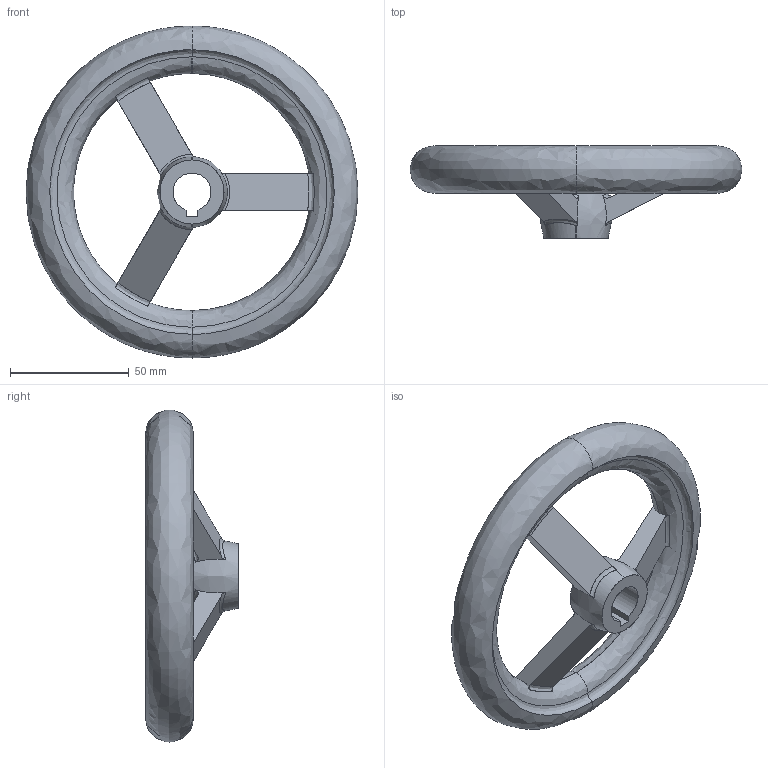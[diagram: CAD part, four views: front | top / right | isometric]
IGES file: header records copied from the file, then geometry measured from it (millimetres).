
Start section: SolidWorks IGES file using analytic representation for surfaces
Global section: file name: C:\Users\IanO\Desktop\Temp File\Process pending\77120_v2\77120_v2_20171108_IGES\77120.W0116.igs; native system: SolidWorks 2017; preprocessor: SolidWorks 2017; author: IanO; date: 171108.084203; units: millimetre
Bounding box: 140 x 39 x 140 mm (x, y, z)
Surface area: 32356.1 mm2 (no closed solid volume)
Topology: 0 solids, 0 shells, 53 faces, 885 edges, 880 vertices
Faces by surface type: bspline 52, revolution 1
